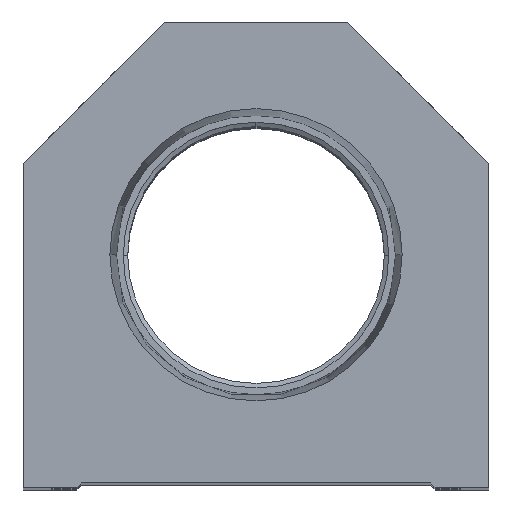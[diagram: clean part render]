
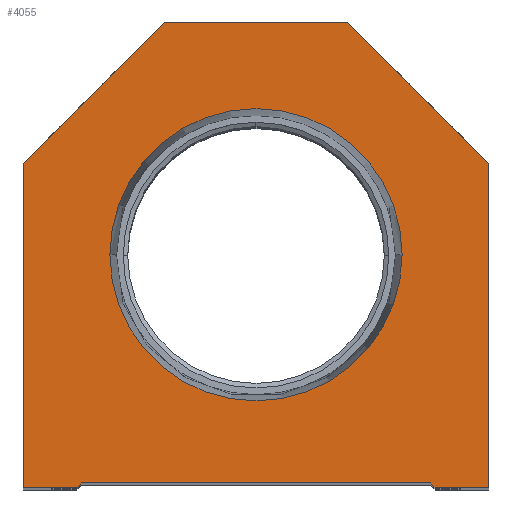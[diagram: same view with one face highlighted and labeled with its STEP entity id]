
A CAD part, top view. The second image highlights one B-rep face of the part: STEP entity #4055.
In plain terms, the highlighted planar face has unit normal (0, 0, 1).
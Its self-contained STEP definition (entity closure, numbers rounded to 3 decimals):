
#402 = EDGE_LOOP ( 'NONE', ( #16042, #7818, #15588, #3094, #7559, #727, #7793, #3168, #7944, #7301 ) ) ;
#582 = VERTEX_POINT ( 'NONE', #7262 ) ;
#727 = ORIENTED_EDGE ( 'NONE', *, *, #14896, .T. ) ;
#747 = VERTEX_POINT ( 'NONE', #4116 ) ;
#993 = VERTEX_POINT ( 'NONE', #16002 ) ;
#1397 = CARTESIAN_POINT ( 'NONE',  ( 9.775, 9.775, 0. ) ) ;
#1408 = LINE ( 'NONE', #11737, #2012 ) ;
#1607 = LINE ( 'NONE', #12219, #6339 ) ;
#1802 = DIRECTION ( 'NONE',  ( 1., 0., 0. ) ) ;
#2012 = VECTOR ( 'NONE', #14677, 1000. ) ;
#2850 = DIRECTION ( 'NONE',  ( 0., 0., 1. ) ) ;
#3094 = ORIENTED_EDGE ( 'NONE', *, *, #8535, .T. ) ;
#3168 = ORIENTED_EDGE ( 'NONE', *, *, #14963, .T. ) ;
#4055 = ADVANCED_FACE ( 'NONE', ( #17679, #7026 ), #5669, .T. ) ;
#4116 = CARTESIAN_POINT ( 'NONE',  ( 19.55, 0., 0. ) ) ;
#4838 = LINE ( 'NONE', #9211, #13543 ) ;
#4943 = EDGE_CURVE ( 'NONE', #7634, #8326, #14139, .T. ) ;
#5021 = CARTESIAN_POINT ( 'NONE',  ( -15.947, 25.4, 0. ) ) ;
#5386 = ORIENTED_EDGE ( 'NONE', *, *, #4943, .F. ) ;
#5455 = VERTEX_POINT ( 'NONE', #9285 ) ;
#5477 = VECTOR ( 'NONE', #1802, 1000. ) ;
#5669 = PLANE ( 'NONE',  #8856 ) ;
#6339 = VECTOR ( 'NONE', #16561, 1000. ) ;
#6342 = CARTESIAN_POINT ( 'NONE',  ( 25.4, 35.4, 0. ) ) ;
#6501 = CARTESIAN_POINT ( 'NONE',  ( 25.4, 0., 0. ) ) ;
#6773 = EDGE_CURVE ( 'NONE', #747, #5455, #1607, .T. ) ;
#6963 = AXIS2_PLACEMENT_3D ( 'NONE', #16434, #2850, #17997 ) ;
#7026 = FACE_OUTER_BOUND ( 'NONE', #402, .T. ) ;
#7262 = CARTESIAN_POINT ( 'NONE',  ( 10., 50.8, 0. ) ) ;
#7301 = ORIENTED_EDGE ( 'NONE', *, *, #14264, .T. ) ;
#7444 = EDGE_CURVE ( 'NONE', #13681, #582, #1408, .T. ) ;
#7516 = CARTESIAN_POINT ( 'NONE',  ( 15.947, 25.4, 0. ) ) ;
#7559 = ORIENTED_EDGE ( 'NONE', *, *, #6773, .T. ) ;
#7634 = VERTEX_POINT ( 'NONE', #7516 ) ;
#7793 = ORIENTED_EDGE ( 'NONE', *, *, #7444, .T. ) ;
#7818 = ORIENTED_EDGE ( 'NONE', *, *, #17513, .T. ) ;
#7820 = LINE ( 'NONE', #16733, #8718 ) ;
#7944 = ORIENTED_EDGE ( 'NONE', *, *, #10109, .T. ) ;
#8326 = VERTEX_POINT ( 'NONE', #5021 ) ;
#8476 = CARTESIAN_POINT ( 'NONE',  ( 0., 0., 0. ) ) ;
#8535 = EDGE_CURVE ( 'NONE', #13258, #747, #10259, .T. ) ;
#8718 = VECTOR ( 'NONE', #12392, 1000. ) ;
#8856 = AXIS2_PLACEMENT_3D ( 'NONE', #8476, #17779, #10329 ) ;
#8929 = CARTESIAN_POINT ( 'NONE',  ( -19.05, 0.5, 0. ) ) ;
#9129 = DIRECTION ( 'NONE',  ( -1., 0., 0. ) ) ;
#9211 = CARTESIAN_POINT ( 'NONE',  ( -9.775, 9.775, 0. ) ) ;
#9285 = CARTESIAN_POINT ( 'NONE',  ( 25.4, 0., 0. ) ) ;
#9492 = CARTESIAN_POINT ( 'NONE',  ( 0., 25.4, 0. ) ) ;
#9946 = VECTOR ( 'NONE', #9129, 1000. ) ;
#10109 = EDGE_CURVE ( 'NONE', #10976, #993, #13784, .T. ) ;
#10131 = CARTESIAN_POINT ( 'NONE',  ( -19.05, 0.5, 0. ) ) ;
#10259 = LINE ( 'NONE', #1397, #17647 ) ;
#10291 = EDGE_LOOP ( 'NONE', ( #5386, #13180 ) ) ;
#10298 = CARTESIAN_POINT ( 'NONE',  ( 19.05, 0.5, 0. ) ) ;
#10329 = DIRECTION ( 'NONE',  ( 1., 0., 0. ) ) ;
#10475 = VERTEX_POINT ( 'NONE', #10131 ) ;
#10479 = CARTESIAN_POINT ( 'NONE',  ( -10., 50.8, 0. ) ) ;
#10976 = VERTEX_POINT ( 'NONE', #10479 ) ;
#11163 = VECTOR ( 'NONE', #14586, 1000. ) ;
#11650 = CARTESIAN_POINT ( 'NONE',  ( -25.4, 0., 0. ) ) ;
#11737 = CARTESIAN_POINT ( 'NONE',  ( 25.4, 35.4, 0. ) ) ;
#12114 = CARTESIAN_POINT ( 'NONE',  ( -25.4, 35.4, 0. ) ) ;
#12219 = CARTESIAN_POINT ( 'NONE',  ( 19.05, 0., 0. ) ) ;
#12242 = LINE ( 'NONE', #16582, #9946 ) ;
#12392 = DIRECTION ( 'NONE',  ( 1., 0., 0. ) ) ;
#13051 = VECTOR ( 'NONE', #13690, 1000. ) ;
#13180 = ORIENTED_EDGE ( 'NONE', *, *, #14411, .F. ) ;
#13258 = VERTEX_POINT ( 'NONE', #10298 ) ;
#13284 = CARTESIAN_POINT ( 'NONE',  ( -19.55, 0., 0. ) ) ;
#13543 = VECTOR ( 'NONE', #16672, 1000. ) ;
#13613 = LINE ( 'NONE', #8929, #5477 ) ;
#13681 = VERTEX_POINT ( 'NONE', #6342 ) ;
#13690 = DIRECTION ( 'NONE',  ( -0.707, -0.707, 0. ) ) ;
#13784 = LINE ( 'NONE', #12114, #13051 ) ;
#14139 = CIRCLE ( 'NONE', #6963, 15.947 ) ;
#14264 = EDGE_CURVE ( 'NONE', #993, #16810, #14483, .T. ) ;
#14411 = EDGE_CURVE ( 'NONE', #8326, #7634, #16824, .T. ) ;
#14483 = LINE ( 'NONE', #11650, #11163 ) ;
#14586 = DIRECTION ( 'NONE',  ( 0., -1., 0. ) ) ;
#14677 = DIRECTION ( 'NONE',  ( -0.707, 0.707, 0. ) ) ;
#14896 = EDGE_CURVE ( 'NONE', #5455, #13681, #15406, .T. ) ;
#14963 = EDGE_CURVE ( 'NONE', #582, #10976, #12242, .T. ) ;
#15406 = LINE ( 'NONE', #6501, #17145 ) ;
#15588 = ORIENTED_EDGE ( 'NONE', *, *, #18195, .T. ) ;
#15693 = EDGE_CURVE ( 'NONE', #16810, #19269, #7820, .T. ) ;
#16002 = CARTESIAN_POINT ( 'NONE',  ( -25.4, 35.4, 0. ) ) ;
#16042 = ORIENTED_EDGE ( 'NONE', *, *, #15693, .T. ) ;
#16434 = CARTESIAN_POINT ( 'NONE',  ( 0., 25.4, 0. ) ) ;
#16561 = DIRECTION ( 'NONE',  ( 1., 0., 0. ) ) ;
#16582 = CARTESIAN_POINT ( 'NONE',  ( 10., 50.8, 0. ) ) ;
#16672 = DIRECTION ( 'NONE',  ( 0.707, 0.707, 0. ) ) ;
#16677 = DIRECTION ( 'NONE',  ( 0., 1., 0. ) ) ;
#16733 = CARTESIAN_POINT ( 'NONE',  ( -19.05, 0., 0. ) ) ;
#16810 = VERTEX_POINT ( 'NONE', #18144 ) ;
#16824 = CIRCLE ( 'NONE', #17759, 15.947 ) ;
#17145 = VECTOR ( 'NONE', #16677, 1000. ) ;
#17513 = EDGE_CURVE ( 'NONE', #19269, #10475, #4838, .T. ) ;
#17647 = VECTOR ( 'NONE', #19264, 1000. ) ;
#17679 = FACE_BOUND ( 'NONE', #10291, .T. ) ;
#17759 = AXIS2_PLACEMENT_3D ( 'NONE', #9492, #18781, #18598 ) ;
#17779 = DIRECTION ( 'NONE',  ( 0., 0., 1. ) ) ;
#17997 = DIRECTION ( 'NONE',  ( 1., 0., 0. ) ) ;
#18144 = CARTESIAN_POINT ( 'NONE',  ( -25.4, 0., 0. ) ) ;
#18195 = EDGE_CURVE ( 'NONE', #10475, #13258, #13613, .T. ) ;
#18598 = DIRECTION ( 'NONE',  ( 1., 0., 0. ) ) ;
#18781 = DIRECTION ( 'NONE',  ( 0., 0., 1. ) ) ;
#19264 = DIRECTION ( 'NONE',  ( 0.707, -0.707, 0. ) ) ;
#19269 = VERTEX_POINT ( 'NONE', #13284 ) ;
